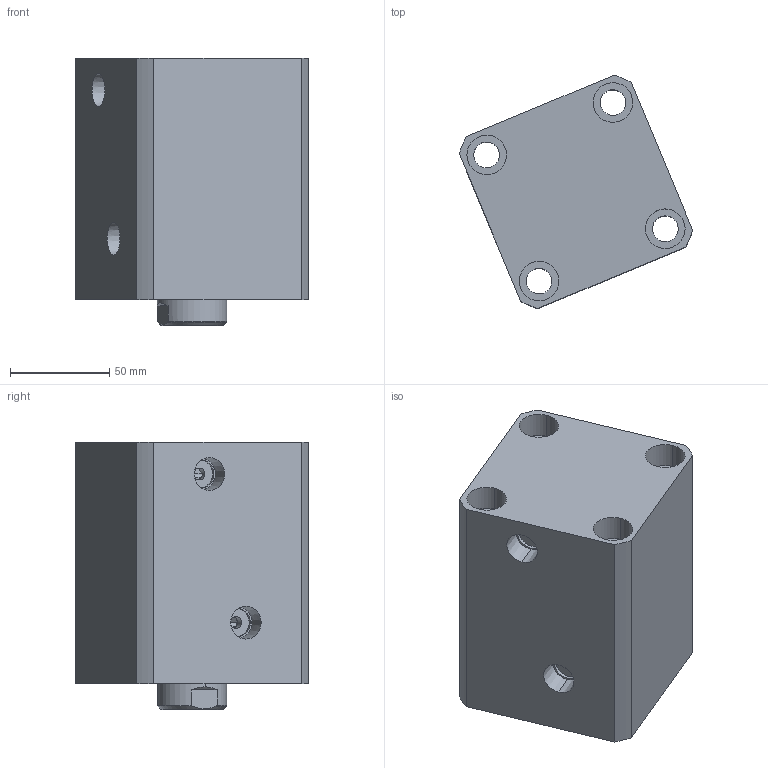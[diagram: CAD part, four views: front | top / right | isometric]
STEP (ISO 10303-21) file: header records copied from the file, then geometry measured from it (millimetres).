
FILE_DESCRIPTION (( 'STEP AP214' ), '1' );
FILE_NAME ('chtb-sd63x55n_asm.STEP', '2018-05-09T01:50:51', ( 'Windows' ), ( 'Microsoft' ), 'SwSTEP 2.0', 'SolidWorks 2015', '' );
FILE_SCHEMA (( 'AUTOMOTIVE_DESIGN' ));
Length unit declared in the file: millimetre
Products named in the file (4): CHTB63X55NHSG; CHTB63X55NBT; CHTB-63QG; chtb-sd63x55n_asm
Assembly tree (3 placements, depth 2):
  chtb-sd63x55n_asm
    CHTB-63QG
    CHTB63X55NBT
    CHTB63X55NHSG
Bounding box: 117.81 x 117.81 x 135 mm (x, y, z)
Volume: 863721 mm3; surface area: 148685.7 mm2
Topology: 3 solids, 3 shells, 165 faces, 465 edges, 318 vertices
Faces by surface type: cylinder 101, plane 33, bspline 12, cone 12, torus 7
Entity records: 17638 total; most frequent: CARTESIAN_POINT 13505, ORIENTED_EDGE 918, DIRECTION 719, EDGE_CURVE 459, VERTEX_POINT 318, AXIS2_PLACEMENT_3D 291, EDGE_LOOP 197, FACE_OUTER_BOUND 165
